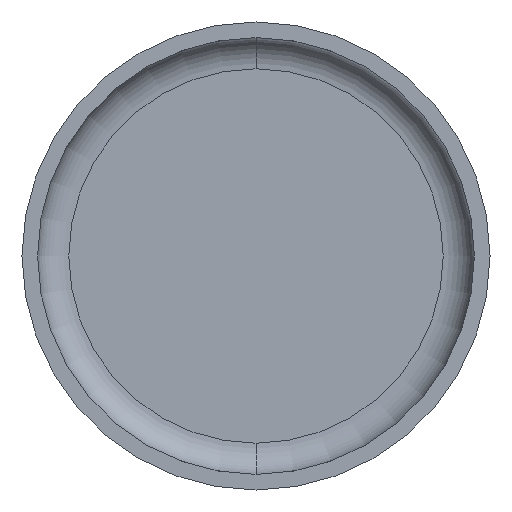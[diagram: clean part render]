
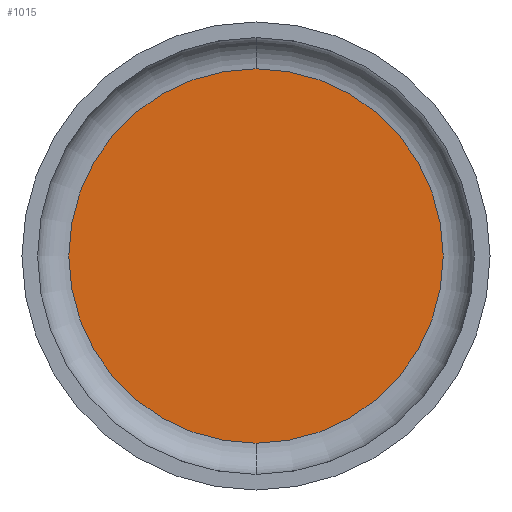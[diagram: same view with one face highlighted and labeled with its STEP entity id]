
A CAD part, front view. The second image highlights one B-rep face of the part: STEP entity #1015.
In plain terms, the highlighted planar face has unit normal (0, -1, 0).
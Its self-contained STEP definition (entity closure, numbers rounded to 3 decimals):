
#5 = DIRECTION ( 'NONE',  ( 0., 1., 0. ) ) ;
#48 = AXIS2_PLACEMENT_3D ( 'NONE', #997, #5, #1003 ) ;
#81 = CARTESIAN_POINT ( 'NONE',  ( 0., 34., -12. ) ) ;
#154 = EDGE_CURVE ( 'NONE', #872, #820, #1063, .T. ) ;
#156 = CIRCLE ( 'NONE', #1073, 12. ) ;
#240 = CARTESIAN_POINT ( 'NONE',  ( 0., 34., 12. ) ) ;
#270 = AXIS2_PLACEMENT_3D ( 'NONE', #628, #696, #855 ) ;
#275 = FACE_OUTER_BOUND ( 'NONE', #605, .T. ) ;
#311 = EDGE_CURVE ( 'NONE', #820, #872, #156, .T. ) ;
#357 = ORIENTED_EDGE ( 'NONE', *, *, #154, .F. ) ;
#605 = EDGE_LOOP ( 'NONE', ( #667, #357 ) ) ;
#628 = CARTESIAN_POINT ( 'NONE',  ( 0., 34., 0. ) ) ;
#667 = ORIENTED_EDGE ( 'NONE', *, *, #311, .F. ) ;
#696 = DIRECTION ( 'NONE',  ( 0., 1., 0. ) ) ;
#781 = DIRECTION ( 'NONE',  ( 0., 0., 1. ) ) ;
#788 = DIRECTION ( 'NONE',  ( 0., 1., 0. ) ) ;
#820 = VERTEX_POINT ( 'NONE', #240 ) ;
#855 = DIRECTION ( 'NONE',  ( 0., 0., 1. ) ) ;
#872 = VERTEX_POINT ( 'NONE', #81 ) ;
#956 = PLANE ( 'NONE',  #270 ) ;
#997 = CARTESIAN_POINT ( 'NONE',  ( 0., 34., 0. ) ) ;
#1003 = DIRECTION ( 'NONE',  ( 0., 0., 1. ) ) ;
#1015 = ADVANCED_FACE ( 'NONE', ( #275 ), #956, .F. ) ;
#1048 = CARTESIAN_POINT ( 'NONE',  ( 0., 34., 0. ) ) ;
#1063 = CIRCLE ( 'NONE', #48, 12. ) ;
#1073 = AXIS2_PLACEMENT_3D ( 'NONE', #1048, #788, #781 ) ;
